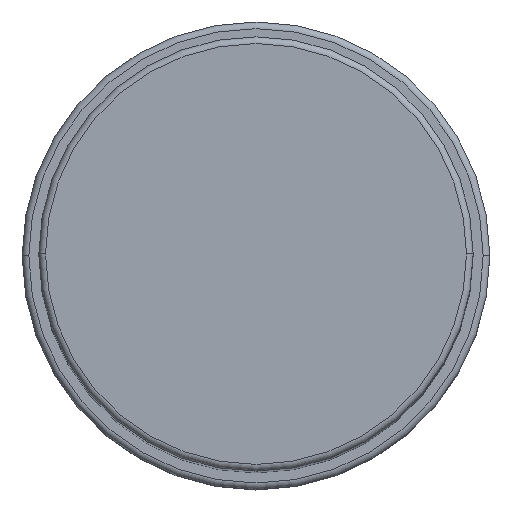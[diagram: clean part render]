
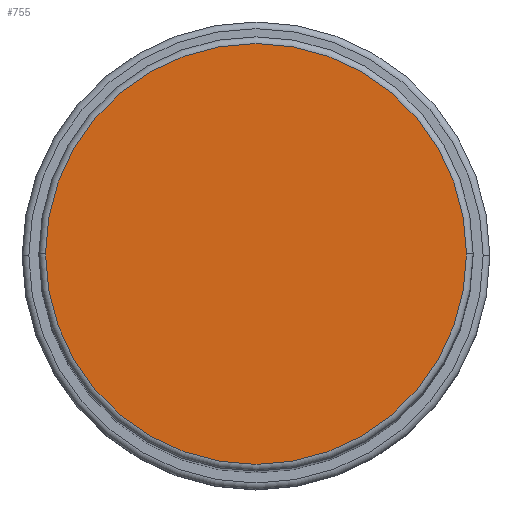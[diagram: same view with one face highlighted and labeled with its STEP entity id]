
A CAD part, top view. The second image highlights one B-rep face of the part: STEP entity #755.
In plain terms, the highlighted planar face has unit normal (0, 0, 1).
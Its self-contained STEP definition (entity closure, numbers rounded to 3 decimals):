
#53 = EDGE_LOOP ( 'NONE', ( #391, #1514 ) ) ;
#131 = CIRCLE ( 'NONE', #1279, 31.5 ) ;
#242 = CARTESIAN_POINT ( 'NONE',  ( 31.5, 0., 173. ) ) ;
#267 = CARTESIAN_POINT ( 'NONE',  ( -31.5, 0., 173. ) ) ;
#281 = CIRCLE ( 'NONE', #1251, 31.5 ) ;
#340 = DIRECTION ( 'NONE',  ( 1., 0., 0. ) ) ;
#391 = ORIENTED_EDGE ( 'NONE', *, *, #858, .T. ) ;
#396 = AXIS2_PLACEMENT_3D ( 'NONE', #915, #660, #1144 ) ;
#417 = CARTESIAN_POINT ( 'NONE',  ( 0., 0., 173. ) ) ;
#627 = VERTEX_POINT ( 'NONE', #242 ) ;
#646 = FACE_OUTER_BOUND ( 'NONE', #53, .T. ) ;
#660 = DIRECTION ( 'NONE',  ( 0., 0., 1. ) ) ;
#723 = CARTESIAN_POINT ( 'NONE',  ( 0., 0., 173. ) ) ;
#755 = ADVANCED_FACE ( 'NONE', ( #646 ), #1021, .T. ) ;
#858 = EDGE_CURVE ( 'NONE', #627, #952, #131, .T. ) ;
#915 = CARTESIAN_POINT ( 'NONE',  ( 0., 0., 173. ) ) ;
#952 = VERTEX_POINT ( 'NONE', #267 ) ;
#1021 = PLANE ( 'NONE',  #396 ) ;
#1144 = DIRECTION ( 'NONE',  ( 1., 0., 0. ) ) ;
#1251 = AXIS2_PLACEMENT_3D ( 'NONE', #723, #1599, #340 ) ;
#1279 = AXIS2_PLACEMENT_3D ( 'NONE', #417, #1291, #1571 ) ;
#1291 = DIRECTION ( 'NONE',  ( 0., 0., 1. ) ) ;
#1378 = EDGE_CURVE ( 'NONE', #952, #627, #281, .T. ) ;
#1514 = ORIENTED_EDGE ( 'NONE', *, *, #1378, .T. ) ;
#1571 = DIRECTION ( 'NONE',  ( 1., 0., 0. ) ) ;
#1599 = DIRECTION ( 'NONE',  ( 0., 0., 1. ) ) ;
